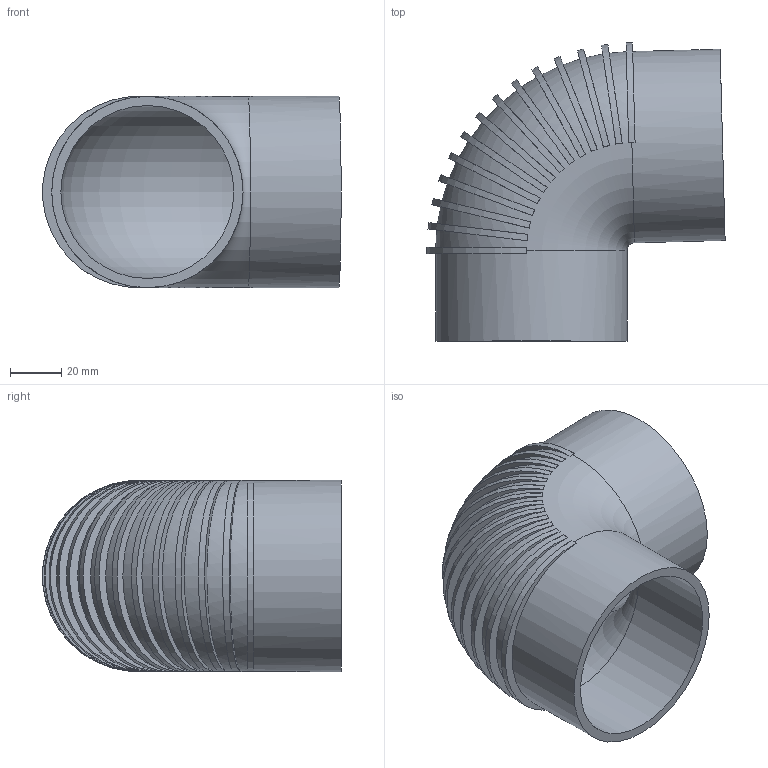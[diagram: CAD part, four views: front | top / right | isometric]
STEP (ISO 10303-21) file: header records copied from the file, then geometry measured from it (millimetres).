
FILE_DESCRIPTION(/* description */ (''),/* implementation_level */ '2;1');
FILE_NAME(/* name */ 'Z:\Geberit\Export\NewStep\Bogen_Ipart\stp\307880.stp',/* time_stamp */ '2014-04-03T16:43:24+02:00',/* author */ ('Marco'),/* organization */ (''),/* preprocessor_version */ 'ST-DEVELOPER v15.2',/* originating_system */ 'Autodesk Inventor 2014',/* authorisation */ '');
FILE_SCHEMA (('AUTOMOTIVE_DESIGN { 1 0 10303 214 3 1 1 }'));
Length unit declared in the file: millimetre
Products named in the file (1): 307880
Bounding box: 116.92 x 117.02 x 75 mm (x, y, z)
Volume: 117467.2 mm3; surface area: 69405.3 mm2
Topology: 1 solids, 1 shells, 50 faces, 144 edges, 96 vertices
Faces by surface type: plane 30, cylinder 18, torus 2
Full cylindrical faces by diameter (mm): 67.8 x2, 75 x2
Entity records: 2419 total; most frequent: CARTESIAN_POINT 1249, ORIENTED_EDGE 244, DIRECTION 182, EDGE_CURVE 122, VERTEX_POINT 92, AXIS2_PLACEMENT_3D 89, B_SPLINE_CURVE_WITH_KNOTS 80, EDGE_LOOP 70
